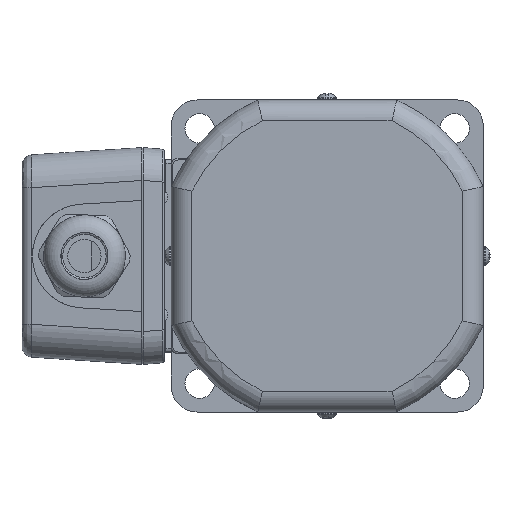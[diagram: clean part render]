
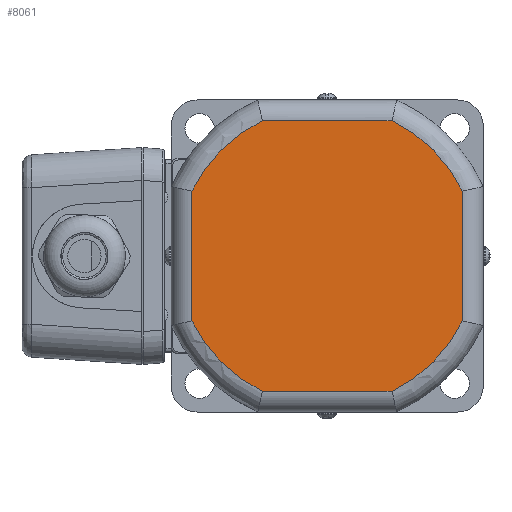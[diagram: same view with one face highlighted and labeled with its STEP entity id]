
A CAD part, left-side view. The second image highlights one B-rep face of the part: STEP entity #8061.
In plain terms, the highlighted planar face has unit normal (-1, 0, 0).
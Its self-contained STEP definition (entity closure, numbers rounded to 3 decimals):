
#861=FACE_OUTER_BOUND('',#1338,.T.);
#1338=EDGE_LOOP('',(#6137,#6138,#6139,#6140,#6141,#6142,#6143,#6144));
#1944=CIRCLE('',#8666,43.25);
#1945=CIRCLE('',#8667,43.25);
#1946=CIRCLE('',#8668,43.25);
#1947=CIRCLE('',#8669,43.25);
#2358=LINE('',#13707,#2977);
#2359=LINE('',#13711,#2978);
#2360=LINE('',#13715,#2979);
#2361=LINE('',#13719,#2980);
#2977=VECTOR('',#9948,37.393);
#2978=VECTOR('',#9951,37.393);
#2979=VECTOR('',#9954,37.393);
#2980=VECTOR('',#9957,37.393);
#3661=VERTEX_POINT('',#13705);
#3662=VERTEX_POINT('',#13706);
#3663=VERTEX_POINT('',#13708);
#3664=VERTEX_POINT('',#13710);
#3665=VERTEX_POINT('',#13712);
#3666=VERTEX_POINT('',#13714);
#3667=VERTEX_POINT('',#13716);
#3668=VERTEX_POINT('',#13718);
#4564=EDGE_CURVE('',#3661,#3662,#2358,.T.);
#4565=EDGE_CURVE('',#3663,#3661,#1944,.T.);
#4566=EDGE_CURVE('',#3664,#3663,#2359,.T.);
#4567=EDGE_CURVE('',#3665,#3664,#1945,.T.);
#4568=EDGE_CURVE('',#3666,#3665,#2360,.T.);
#4569=EDGE_CURVE('',#3667,#3666,#1946,.T.);
#4570=EDGE_CURVE('',#3668,#3667,#2361,.T.);
#4571=EDGE_CURVE('',#3662,#3668,#1947,.T.);
#6137=ORIENTED_EDGE('',*,*,#4564,.F.);
#6138=ORIENTED_EDGE('',*,*,#4565,.F.);
#6139=ORIENTED_EDGE('',*,*,#4566,.F.);
#6140=ORIENTED_EDGE('',*,*,#4567,.F.);
#6141=ORIENTED_EDGE('',*,*,#4568,.F.);
#6142=ORIENTED_EDGE('',*,*,#4569,.F.);
#6143=ORIENTED_EDGE('',*,*,#4570,.F.);
#6144=ORIENTED_EDGE('',*,*,#4571,.F.);
#7723=PLANE('',#8665);
#8061=ADVANCED_FACE('',(#861),#7723,.F.);
#8665=AXIS2_PLACEMENT_3D('',#13704,#9946,#9947);
#8666=AXIS2_PLACEMENT_3D('',#13709,#9949,#9950);
#8667=AXIS2_PLACEMENT_3D('',#13713,#9952,#9953);
#8668=AXIS2_PLACEMENT_3D('',#13717,#9955,#9956);
#8669=AXIS2_PLACEMENT_3D('',#13720,#9958,#9959);
#9946=DIRECTION('center_axis',(1.,0.,0.));
#9947=DIRECTION('ref_axis',(0.,1.,0.));
#9948=DIRECTION('',(0.,-1.,0.));
#9949=DIRECTION('center_axis',(1.,0.,0.));
#9950=DIRECTION('ref_axis',(0.,0.707,0.707));
#9951=DIRECTION('',(0.,0.,1.));
#9952=DIRECTION('center_axis',(1.,0.,0.));
#9953=DIRECTION('ref_axis',(0.,0.707,-0.707));
#9954=DIRECTION('',(0.,1.,0.));
#9955=DIRECTION('center_axis',(1.,0.,0.));
#9956=DIRECTION('ref_axis',(0.,-0.707,-0.707));
#9957=DIRECTION('',(0.,0.,-1.));
#9958=DIRECTION('center_axis',(1.,0.,0.));
#9959=DIRECTION('ref_axis',(0.,-0.707,0.707));
#13704=CARTESIAN_POINT('Origin',(-17.8,0.,
0.));
#13705=CARTESIAN_POINT('',(-17.8,18.697,39.));
#13706=CARTESIAN_POINT('',(-17.8,-18.697,39.));
#13707=CARTESIAN_POINT('',(-17.8,18.697,39.));
#13708=CARTESIAN_POINT('',(-17.8,39.,18.697));
#13709=CARTESIAN_POINT('Origin',(-17.8,0.,
0.));
#13710=CARTESIAN_POINT('',(-17.8,39.,-18.697));
#13711=CARTESIAN_POINT('',(-17.8,39.,-18.697));
#13712=CARTESIAN_POINT('',(-17.8,18.697,-39.));
#13713=CARTESIAN_POINT('Origin',(-17.8,0.,
0.));
#13714=CARTESIAN_POINT('',(-17.8,-18.697,-39.));
#13715=CARTESIAN_POINT('',(-17.8,-18.697,-39.));
#13716=CARTESIAN_POINT('',(-17.8,-39.,-18.697));
#13717=CARTESIAN_POINT('Origin',(-17.8,0.,
0.));
#13718=CARTESIAN_POINT('',(-17.8,-39.,18.697));
#13719=CARTESIAN_POINT('',(-17.8,-39.,18.697));
#13720=CARTESIAN_POINT('Origin',(-17.8,0.,
0.));
